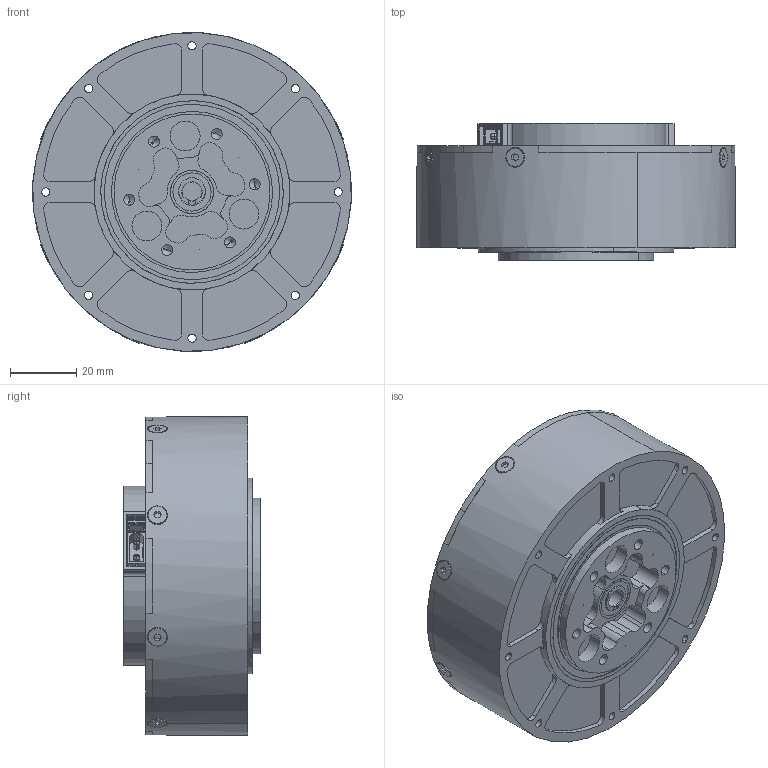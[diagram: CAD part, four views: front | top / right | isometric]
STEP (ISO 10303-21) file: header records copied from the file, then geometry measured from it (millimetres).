
FILE_DESCRIPTION (( 'STEP AP203' ), '1' );
FILE_NAME ('RMD-X8-P9-32-R 外形图.STEP', '2026-09-20T05:10:44', ( '微软用户' ), ( '微软中国' ), 'SwSTEP 2.0', 'SolidWorks 2020', '' );
FILE_SCHEMA (( 'CONFIG_CONTROL_DESIGN' ));
Length unit declared in the file: millimetre
Products named in the file (9): 8MT.034.031_Default________.STEP; 686-2Z P5  D6xD13x5_Default________.STEP; XMT.109.013_Default________.STEP; TBP06-6.STEP; RMD-X8-P9-32-R 俋倛芞; ______________ M3_M3x6  12.9____.STEP; 3D_XH-电源转接板 V1.1_2025-03-06-1_Default<按加工>; 8MT.013.101-V1.STEP; 6709-2Z P5  D45xD55x6_Default________.STEP
Assembly tree (14 placements, depth 2):
  RMD-X8-P9-32-R 俋倛芞
    XMT.109.013_Default________.STEP
    6709-2Z P5  D45xD55x6_Default________.STEP
    686-2Z P5  D6xD13x5_Default________.STEP
    8MT.034.031_Default________.STEP
    8MT.013.101-V1.STEP
    ______________ M3_M3x6  12.9____.STEP  x7
    TBP06-6.STEP
    3D_XH-电源转接板 V1.1_2025-03-06-1_Default<按加工>
Bounding box: 95.91 x 41.2 x 95.91 mm (x, y, z)
Volume: 51209.2 mm3; surface area: 67809.1 mm2
Topology: 16 solids, 16 shells, 1742 faces, 4680 edges, 3058 vertices
Faces by surface type: plane 827, cylinder 622, bspline 210, cone 59, sphere 16, torus 8
Entity records: 62861 total; most frequent: CARTESIAN_POINT 20244, ORIENTED_EDGE 8940, DIRECTION 8218, EDGE_CURVE 4470, VERTEX_POINT 2938, AXIS2_PLACEMENT_3D 2788, LINE 2642, VECTOR 2642
